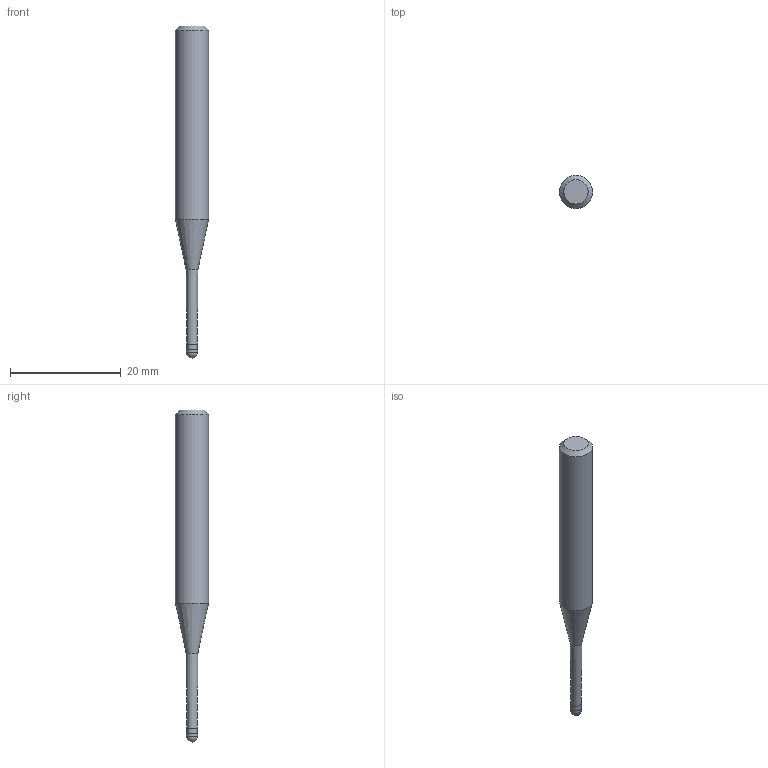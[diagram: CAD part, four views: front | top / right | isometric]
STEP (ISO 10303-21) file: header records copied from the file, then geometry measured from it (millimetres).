
FILE_DESCRIPTION((''),'2;1');
FILE_NAME('C:\Users\nsx150\AppData\Local\Temp\Mastercam 2021\E0ENTZRV18\TEMP.step','2021-09-02T09:56:39',(''),(''),'STEP Write','Mastercam 2021 ... CNC Software, Inc.','');
FILE_SCHEMA(('AUTOMOTIVE_DESIGN'));
Length unit declared in the file: millimetre
Products named in the file (1): None
Bounding box: 6 x 6 x 60 mm (x, y, z)
Volume: 1157.3 mm3; surface area: 901.4 mm2
Topology: 2 solids, 2 shells, 10 faces, 16 edges, 9 vertices
Faces by surface type: plane 3, cylinder 3, cone 3, sphere 1
Full cylindrical faces by diameter (mm): 1.875 x1, 2 x1, 6 x1
Entity records: 232 total; most frequent: DIRECTION 40, CARTESIAN_POINT 28, AXIS2_PLACEMENT_3D 20, ORIENTED_EDGE 16, EDGE_LOOP 16, STYLED_ITEM 13, ADVANCED_FACE 10, FACE_BOUND 9
